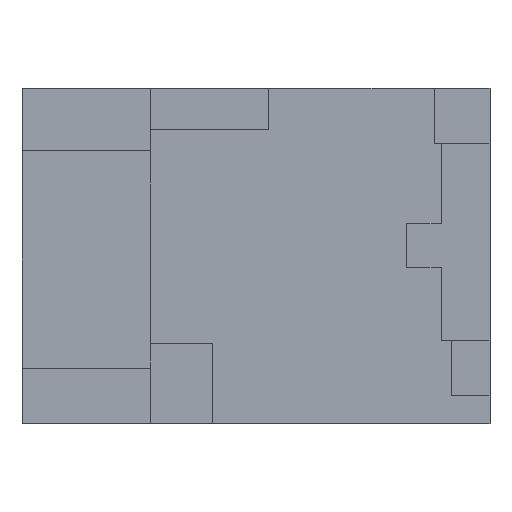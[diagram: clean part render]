
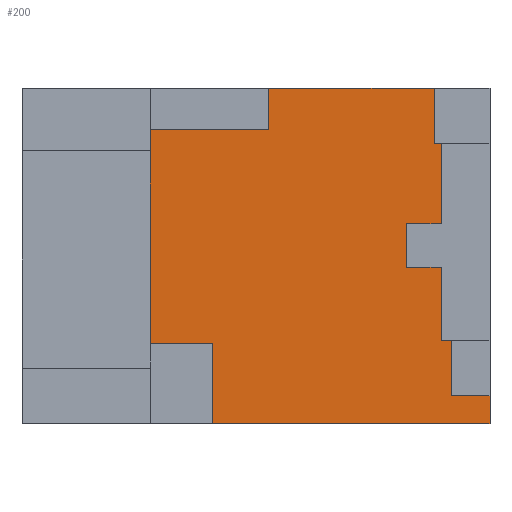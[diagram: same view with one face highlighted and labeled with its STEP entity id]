
A CAD part, top view. The second image highlights one B-rep face of the part: STEP entity #200.
In plain terms, the highlighted planar face has unit normal (0, 0, 1).
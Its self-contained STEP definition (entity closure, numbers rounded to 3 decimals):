
#48 = VERTEX_POINT('',#49);
#49 = CARTESIAN_POINT('',(33.6,-24.1,-4.));
#55 = EDGE_CURVE('',#56,#48,#58,.T.);
#56 = VERTEX_POINT('',#57);
#57 = CARTESIAN_POINT('',(-6.2,-24.1,-4.));
#58 = LINE('',#59,#60);
#59 = CARTESIAN_POINT('',(21.6,-24.1,-4.));
#60 = VECTOR('',#61,1.);
#61 = DIRECTION('',(1.,0.,0.));
#182 = VERTEX_POINT('',#183);
#183 = CARTESIAN_POINT('',(-6.2,-12.6,-4.));
#189 = EDGE_CURVE('',#182,#56,#190,.T.);
#190 = LINE('',#191,#192);
#191 = CARTESIAN_POINT('',(-6.2,-12.6,-4.));
#192 = VECTOR('',#193,1.);
#193 = DIRECTION('',(0.,-1.,0.));
#200 = ADVANCED_FACE('',(#201),#339,.T.);
#201 = FACE_BOUND('',#202,.T.);
#202 = EDGE_LOOP('',(#203,#211,#212,#213,#221,#229,#237,#245,#253,#261,
    #269,#277,#285,#293,#301,#309,#317,#325,#333));
#203 = ORIENTED_EDGE('',*,*,#204,.T.);
#204 = EDGE_CURVE('',#205,#182,#207,.T.);
#205 = VERTEX_POINT('',#206);
#206 = CARTESIAN_POINT('',(-15.2,-12.6,-4.));
#207 = LINE('',#208,#209);
#208 = CARTESIAN_POINT('',(-15.2,-12.6,-4.));
#209 = VECTOR('',#210,1.);
#210 = DIRECTION('',(1.,0.,0.));
#211 = ORIENTED_EDGE('',*,*,#189,.T.);
#212 = ORIENTED_EDGE('',*,*,#55,.T.);
#213 = ORIENTED_EDGE('',*,*,#214,.T.);
#214 = EDGE_CURVE('',#48,#215,#217,.T.);
#215 = VERTEX_POINT('',#216);
#216 = CARTESIAN_POINT('',(33.6,-20.1,-4.));
#217 = LINE('',#218,#219);
#218 = CARTESIAN_POINT('',(33.6,-24.1,-4.));
#219 = VECTOR('',#220,1.);
#220 = DIRECTION('',(0.,1.,0.));
#221 = ORIENTED_EDGE('',*,*,#222,.T.);
#222 = EDGE_CURVE('',#215,#223,#225,.T.);
#223 = VERTEX_POINT('',#224);
#224 = CARTESIAN_POINT('',(28.1,-20.1,-4.));
#225 = LINE('',#226,#227);
#226 = CARTESIAN_POINT('',(33.6,-20.1,-4.));
#227 = VECTOR('',#228,1.);
#228 = DIRECTION('',(-1.,0.,0.));
#229 = ORIENTED_EDGE('',*,*,#230,.T.);
#230 = EDGE_CURVE('',#223,#231,#233,.T.);
#231 = VERTEX_POINT('',#232);
#232 = CARTESIAN_POINT('',(28.1,-12.1,-4.));
#233 = LINE('',#234,#235);
#234 = CARTESIAN_POINT('',(28.1,-20.1,-4.));
#235 = VECTOR('',#236,1.);
#236 = DIRECTION('',(0.,1.,0.));
#237 = ORIENTED_EDGE('',*,*,#238,.F.);
#238 = EDGE_CURVE('',#239,#231,#241,.T.);
#239 = VERTEX_POINT('',#240);
#240 = CARTESIAN_POINT('',(26.6,-12.1,-4.));
#241 = LINE('',#242,#243);
#242 = CARTESIAN_POINT('',(18.719,-12.1,-4.));
#243 = VECTOR('',#244,1.);
#244 = DIRECTION('',(1.,0.,0.));
#245 = ORIENTED_EDGE('',*,*,#246,.F.);
#246 = EDGE_CURVE('',#247,#239,#249,.T.);
#247 = VERTEX_POINT('',#248);
#248 = CARTESIAN_POINT('',(26.6,-1.6,-4.));
#249 = LINE('',#250,#251);
#250 = CARTESIAN_POINT('',(26.6,7.466,-4.));
#251 = VECTOR('',#252,1.);
#252 = DIRECTION('',(0.,-1.,0.));
#253 = ORIENTED_EDGE('',*,*,#254,.F.);
#254 = EDGE_CURVE('',#255,#247,#257,.T.);
#255 = VERTEX_POINT('',#256);
#256 = CARTESIAN_POINT('',(21.6,-1.6,-4.));
#257 = LINE('',#258,#259);
#258 = CARTESIAN_POINT('',(16.219,-1.6,-4.));
#259 = VECTOR('',#260,1.);
#260 = DIRECTION('',(1.,0.,0.));
#261 = ORIENTED_EDGE('',*,*,#262,.F.);
#262 = EDGE_CURVE('',#263,#255,#265,.T.);
#263 = VERTEX_POINT('',#264);
#264 = CARTESIAN_POINT('',(21.6,4.6,-4.));
#265 = LINE('',#266,#267);
#266 = CARTESIAN_POINT('',(21.6,1.716,-4.));
#267 = VECTOR('',#268,1.);
#268 = DIRECTION('',(0.,-1.,0.));
#269 = ORIENTED_EDGE('',*,*,#270,.F.);
#270 = EDGE_CURVE('',#271,#263,#273,.T.);
#271 = VERTEX_POINT('',#272);
#272 = CARTESIAN_POINT('',(26.6,4.6,-4.));
#273 = LINE('',#274,#275);
#274 = CARTESIAN_POINT('',(18.719,4.6,-4.));
#275 = VECTOR('',#276,1.);
#276 = DIRECTION('',(-1.,0.,0.));
#277 = ORIENTED_EDGE('',*,*,#278,.F.);
#278 = EDGE_CURVE('',#279,#271,#281,.T.);
#279 = VERTEX_POINT('',#280);
#280 = CARTESIAN_POINT('',(26.6,16.1,-4.));
#281 = LINE('',#282,#283);
#282 = CARTESIAN_POINT('',(26.6,7.466,-4.));
#283 = VECTOR('',#284,1.);
#284 = DIRECTION('',(0.,-1.,0.));
#285 = ORIENTED_EDGE('',*,*,#286,.T.);
#286 = EDGE_CURVE('',#279,#287,#289,.T.);
#287 = VERTEX_POINT('',#288);
#288 = CARTESIAN_POINT('',(25.6,16.1,-4.));
#289 = LINE('',#290,#291);
#290 = CARTESIAN_POINT('',(33.6,16.1,-4.));
#291 = VECTOR('',#292,1.);
#292 = DIRECTION('',(-1.,0.,0.));
#293 = ORIENTED_EDGE('',*,*,#294,.T.);
#294 = EDGE_CURVE('',#287,#295,#297,.T.);
#295 = VERTEX_POINT('',#296);
#296 = CARTESIAN_POINT('',(25.6,24.1,-4.));
#297 = LINE('',#298,#299);
#298 = CARTESIAN_POINT('',(25.6,16.1,-4.));
#299 = VECTOR('',#300,1.);
#300 = DIRECTION('',(0.,1.,0.));
#301 = ORIENTED_EDGE('',*,*,#302,.T.);
#302 = EDGE_CURVE('',#295,#303,#305,.T.);
#303 = VERTEX_POINT('',#304);
#304 = CARTESIAN_POINT('',(1.8,24.1,-4.));
#305 = LINE('',#306,#307);
#306 = CARTESIAN_POINT('',(21.6,24.1,-4.));
#307 = VECTOR('',#308,1.);
#308 = DIRECTION('',(-1.,0.,0.));
#309 = ORIENTED_EDGE('',*,*,#310,.T.);
#310 = EDGE_CURVE('',#303,#311,#313,.T.);
#311 = VERTEX_POINT('',#312);
#312 = CARTESIAN_POINT('',(1.8,18.1,-4.));
#313 = LINE('',#314,#315);
#314 = CARTESIAN_POINT('',(1.8,24.1,-4.));
#315 = VECTOR('',#316,1.);
#316 = DIRECTION('',(0.,-1.,0.));
#317 = ORIENTED_EDGE('',*,*,#318,.T.);
#318 = EDGE_CURVE('',#311,#319,#321,.T.);
#319 = VERTEX_POINT('',#320);
#320 = CARTESIAN_POINT('',(-15.2,18.1,-4.));
#321 = LINE('',#322,#323);
#322 = CARTESIAN_POINT('',(1.8,18.1,-4.));
#323 = VECTOR('',#324,1.);
#324 = DIRECTION('',(-1.,0.,0.));
#325 = ORIENTED_EDGE('',*,*,#326,.T.);
#326 = EDGE_CURVE('',#319,#327,#329,.T.);
#327 = VERTEX_POINT('',#328);
#328 = CARTESIAN_POINT('',(-15.2,15.1,-4.));
#329 = LINE('',#330,#331);
#330 = CARTESIAN_POINT('',(-15.2,18.1,-4.));
#331 = VECTOR('',#332,1.);
#332 = DIRECTION('',(0.,-1.,0.));
#333 = ORIENTED_EDGE('',*,*,#334,.T.);
#334 = EDGE_CURVE('',#327,#205,#335,.T.);
#335 = LINE('',#336,#337);
#336 = CARTESIAN_POINT('',(-15.2,18.1,-4.));
#337 = VECTOR('',#338,1.);
#338 = DIRECTION('',(0.,-1.,0.));
#339 = PLANE('',#340);
#340 = AXIS2_PLACEMENT_3D('',#341,#342,#343);
#341 = CARTESIAN_POINT('',(10.837,-1.169,-4.));
#342 = DIRECTION('',(0.,0.,1.));
#343 = DIRECTION('',(1.,0.,0.));
